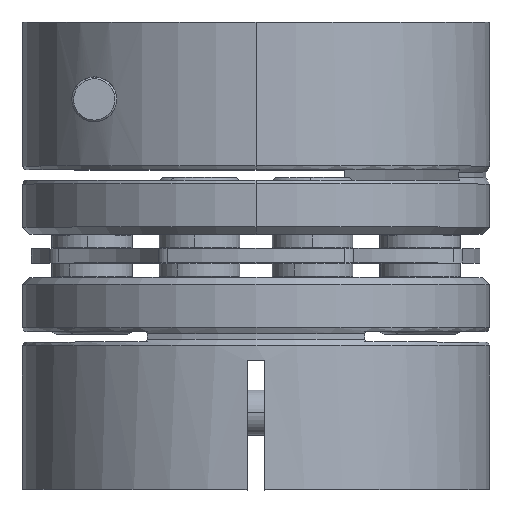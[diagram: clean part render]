
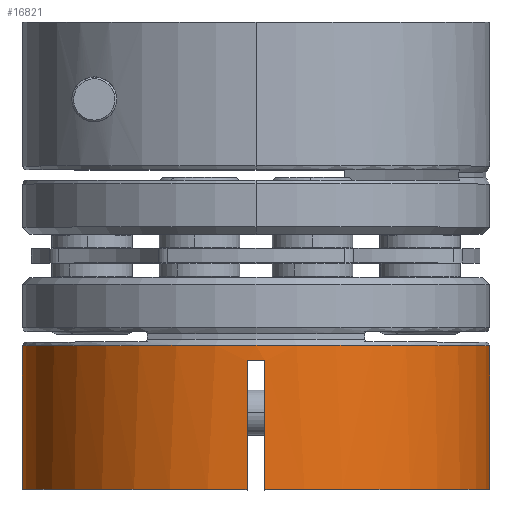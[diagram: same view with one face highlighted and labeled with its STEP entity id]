
A CAD part, top view. The second image highlights one B-rep face of the part: STEP entity #16821.
In plain terms, the highlighted cylindrical face has radius 13 mm (diameter 26 mm), a partial arc.
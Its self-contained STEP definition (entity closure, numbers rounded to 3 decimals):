
#321 = CARTESIAN_POINT ( 'NONE',  ( 1.755, -26.289, 0. ) ) ;
#749 = CIRCLE ( 'NONE', #18052, 13. ) ;
#1115 = CIRCLE ( 'NONE', #10989, 13. ) ;
#1460 = DIRECTION ( 'NONE',  ( 0., 1., 0. ) ) ;
#3115 = CARTESIAN_POINT ( 'NONE',  ( 1.255, -14.489, 12.99 ) ) ;
#3728 = B_SPLINE_CURVE_WITH_KNOTS ( 'NONE', 3,
 ( #13197, #20232, #18283, #6040 ),
 .UNSPECIFIED., .F., .F.,
 ( 4, 4 ),
 ( 0., 0.001 ),
 .UNSPECIFIED. ) ;
#3743 = ORIENTED_EDGE ( 'NONE', *, *, #10897, .F. ) ;
#3800 = VERTEX_POINT ( 'NONE', #19400 ) ;
#3901 = EDGE_CURVE ( 'NONE', #9070, #14176, #9728, .T. ) ;
#3948 = CARTESIAN_POINT ( 'NONE',  ( 1.755, -26.289, 0. ) ) ;
#4031 = EDGE_CURVE ( 'NONE', #21503, #17408, #19232, .T. ) ;
#4072 = EDGE_CURVE ( 'NONE', #21503, #21708, #1115, .T. ) ;
#4084 = ORIENTED_EDGE ( 'NONE', *, *, #4072, .F. ) ;
#4178 = DIRECTION ( 'NONE',  ( 1., 0., 0. ) ) ;
#4499 = CARTESIAN_POINT ( 'NONE',  ( 2.255, -14.489, 12.99 ) ) ;
#5143 = CIRCLE ( 'NONE', #15683, 13. ) ;
#5245 = EDGE_LOOP ( 'NONE', ( #4084, #17724, #11354, #3743, #18981, #6202, #15078, #13712 ) ) ;
#5541 = EDGE_CURVE ( 'NONE', #13531, #21708, #20151, .T. ) ;
#6040 = CARTESIAN_POINT ( 'NONE',  ( 2.255, -19.154, 12.99 ) ) ;
#6066 = CARTESIAN_POINT ( 'NONE',  ( 1.755, -56.94, 0. ) ) ;
#6202 = ORIENTED_EDGE ( 'NONE', *, *, #3901, .F. ) ;
#6961 = VECTOR ( 'NONE', #21427, 1000. ) ;
#8067 = VECTOR ( 'NONE', #22809, 1000. ) ;
#8589 = CARTESIAN_POINT ( 'NONE',  ( 2.255, -19.154, 12.99 ) ) ;
#8841 = CARTESIAN_POINT ( 'NONE',  ( 2.255, -26.289, 12.99 ) ) ;
#9070 = VERTEX_POINT ( 'NONE', #16451 ) ;
#9629 = DIRECTION ( 'NONE',  ( 0., 1., 0. ) ) ;
#9728 = LINE ( 'NONE', #3115, #8067 ) ;
#10091 = VECTOR ( 'NONE', #22341, 1000. ) ;
#10247 = CARTESIAN_POINT ( 'NONE',  ( -11.245, -56.94, 0. ) ) ;
#10490 = VERTEX_POINT ( 'NONE', #15728 ) ;
#10819 = CARTESIAN_POINT ( 'NONE',  ( 14.755, -56.94, 0. ) ) ;
#10897 = EDGE_CURVE ( 'NONE', #3800, #10490, #22986, .T. ) ;
#10989 = AXIS2_PLACEMENT_3D ( 'NONE', #3948, #20153, #4178 ) ;
#11354 = ORIENTED_EDGE ( 'NONE', *, *, #19403, .F. ) ;
#11514 = CARTESIAN_POINT ( 'NONE',  ( 14.755, -26.289, 0. ) ) ;
#11727 = CARTESIAN_POINT ( 'NONE',  ( 14.755, -18.289, 0. ) ) ;
#12783 = AXIS2_PLACEMENT_3D ( 'NONE', #6066, #9629, #20477 ) ;
#13197 = CARTESIAN_POINT ( 'NONE',  ( 1.255, -19.154, 12.99 ) ) ;
#13276 = EDGE_CURVE ( 'NONE', #9070, #13531, #3728, .T. ) ;
#13531 = VERTEX_POINT ( 'NONE', #8589 ) ;
#13712 = ORIENTED_EDGE ( 'NONE', *, *, #5541, .T. ) ;
#14007 = CARTESIAN_POINT ( 'NONE',  ( 1.255, -26.289, 12.99 ) ) ;
#14176 = VERTEX_POINT ( 'NONE', #14007 ) ;
#14437 = DIRECTION ( 'NONE',  ( 1., 0., 0. ) ) ;
#15078 = ORIENTED_EDGE ( 'NONE', *, *, #13276, .T. ) ;
#15399 = DIRECTION ( 'NONE',  ( 0., 1., 0. ) ) ;
#15683 = AXIS2_PLACEMENT_3D ( 'NONE', #321, #21827, #14437 ) ;
#15728 = CARTESIAN_POINT ( 'NONE',  ( -11.245, -18.289, 0. ) ) ;
#16134 = CYLINDRICAL_SURFACE ( 'NONE', #12783, 13. ) ;
#16413 = FACE_OUTER_BOUND ( 'NONE', #5245, .T. ) ;
#16451 = CARTESIAN_POINT ( 'NONE',  ( 1.255, -19.154, 12.99 ) ) ;
#16821 = ADVANCED_FACE ( 'NONE', ( #16413 ), #16134, .T. ) ;
#17408 = VERTEX_POINT ( 'NONE', #11727 ) ;
#17447 = VECTOR ( 'NONE', #1460, 1000. ) ;
#17724 = ORIENTED_EDGE ( 'NONE', *, *, #4031, .T. ) ;
#18052 = AXIS2_PLACEMENT_3D ( 'NONE', #18453, #15399, #18990 ) ;
#18283 = CARTESIAN_POINT ( 'NONE',  ( 1.922, -19.16, 13.003 ) ) ;
#18453 = CARTESIAN_POINT ( 'NONE',  ( 1.755, -18.289, 0. ) ) ;
#18981 = ORIENTED_EDGE ( 'NONE', *, *, #20795, .F. ) ;
#18990 = DIRECTION ( 'NONE',  ( -1., 0., 0. ) ) ;
#19232 = LINE ( 'NONE', #10819, #6961 ) ;
#19400 = CARTESIAN_POINT ( 'NONE',  ( -11.245, -26.289, 0. ) ) ;
#19403 = EDGE_CURVE ( 'NONE', #10490, #17408, #749, .T. ) ;
#20151 = LINE ( 'NONE', #4499, #10091 ) ;
#20153 = DIRECTION ( 'NONE',  ( 0., -1., 0. ) ) ;
#20232 = CARTESIAN_POINT ( 'NONE',  ( 1.589, -19.16, 13.003 ) ) ;
#20477 = DIRECTION ( 'NONE',  ( -1., 0., 0. ) ) ;
#20795 = EDGE_CURVE ( 'NONE', #14176, #3800, #5143, .T. ) ;
#21427 = DIRECTION ( 'NONE',  ( 0., 1., 0. ) ) ;
#21503 = VERTEX_POINT ( 'NONE', #11514 ) ;
#21708 = VERTEX_POINT ( 'NONE', #8841 ) ;
#21827 = DIRECTION ( 'NONE',  ( 0., -1., 0. ) ) ;
#22341 = DIRECTION ( 'NONE',  ( 0., -1., 0. ) ) ;
#22809 = DIRECTION ( 'NONE',  ( 0., -1., 0. ) ) ;
#22986 = LINE ( 'NONE', #10247, #17447 ) ;
